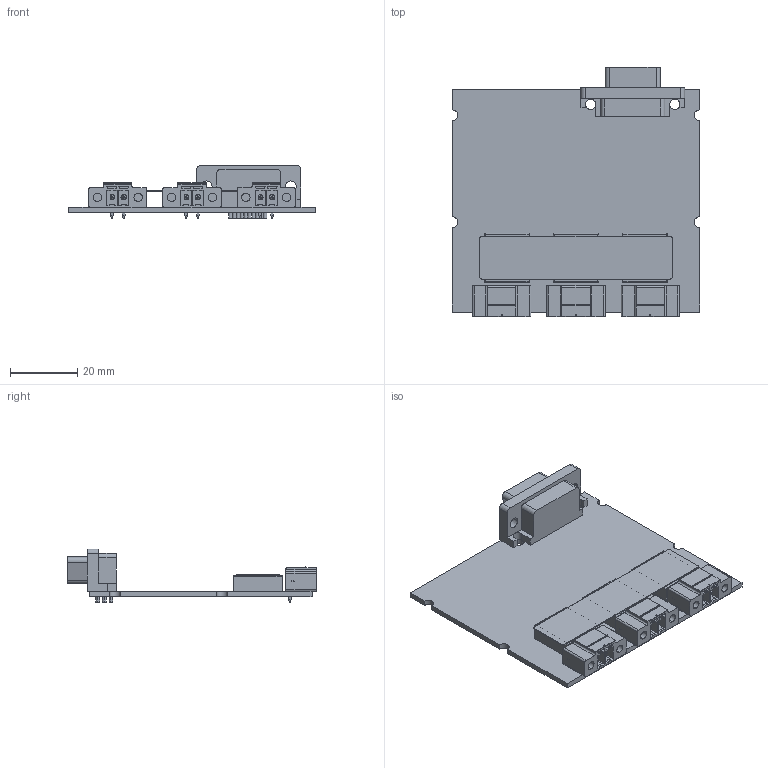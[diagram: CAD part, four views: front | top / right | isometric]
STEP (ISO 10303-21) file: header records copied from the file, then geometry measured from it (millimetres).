
FILE_DESCRIPTION((''),'2;1');
FILE_NAME('CD_NI_9225E','2010-02-05T',('scarrasc'),(''),'PRO/ENGINEER BY PARAMETRIC TECHNOLOGY CORPORATION, 2006080','PRO/ENGINEER BY PARAMETRIC TECHNOLOGY CORPORATION, 2006080','');
FILE_SCHEMA(('CONFIG_CONTROL_DESIGN'));
Length unit declared in the file: inch
Products named in the file (1): CD_NI_9225E
Bounding box: 73.38 x 74.07 x 15.95 mm (x, y, z)
Volume: 15292.3 mm3; surface area: 15909.8 mm2
Topology: 1 solids, 2 shells, 672 faces, 1723 edges, 1122 vertices
Faces by surface type: plane 456, cylinder 210, cone 6
Entity records: 20760 total; most frequent: CARTESIAN_POINT 4054, ORIENTED_EDGE 3446, DIRECTION 3437, EDGE_CURVE 1723, VECTOR 1281, LINE 1281, VERTEX_POINT 1122, AXIS2_PLACEMENT_3D 1078
